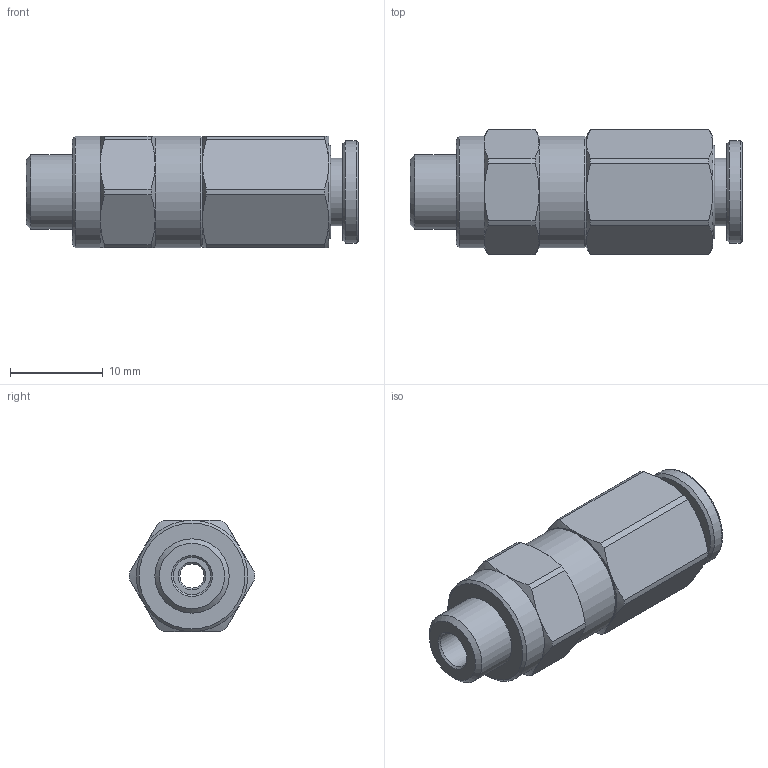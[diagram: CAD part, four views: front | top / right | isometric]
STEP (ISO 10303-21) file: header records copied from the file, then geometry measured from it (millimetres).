
FILE_DESCRIPTION(('STEP AP214'),'1');
FILE_NAME('BVP-10-B20.stp','2026-02-02T08:03:21',(' '),(' '),'Spatial InterOp 3D',' ',' ');
FILE_SCHEMA(('AUTOMOTIVE_DESIGN { 1 0 10303 214 1 1 1 1 }'));
Length unit declared in the file: millimetre
Products named in the file (7): BVP-10-B20; 2; 1; 3; SQC0604:1; SQC0603:1; SQC0602:1
Assembly tree (6 placements, depth 3):
  BVP-10-B20
    2
    1
    3
      SQC0604:1
      SQC0603:1
      SQC0602:1
Bounding box: 35.75 x 13.5 x 12 mm (x, y, z)
Volume: 2687.7 mm3; surface area: 3521.3 mm2
Topology: 5 solids, 5 shells, 333 faces, 918 edges, 609 vertices
Faces by surface type: cone 114, cylinder 109, plane 84, torus 26
Full cylindrical faces by diameter (mm): 2.6 x2, 4 x1, 4.7 x1, 6.25 x1, 6.4 x1, 7 x1, 7.3 x1, 7.5 x1, 7.75 x2, 7.8 x1, 8 x1, 8.1 x2, 9.1 x1, 9.2 x1, 10 x1, 10.1 x1, 10.25 x1, 10.8 x1, 10.9 x1, 11 x1, 12 x2
Entity records: 18353 total; most frequent: CARTESIAN_POINT 3597, ORIENTED_EDGE 1716, DIRECTION 1389, STYLED_ITEM 1196, PRESENTATION_STYLE_ASSIGNMENT 1196, COLOUR_RGB 1196, EDGE_CURVE 858, CURVE_STYLE 858
